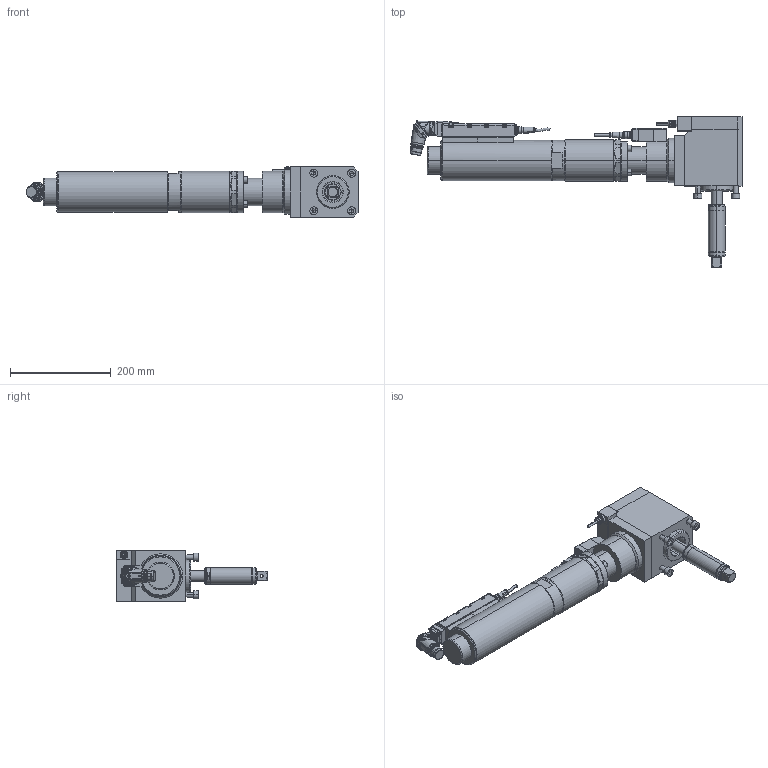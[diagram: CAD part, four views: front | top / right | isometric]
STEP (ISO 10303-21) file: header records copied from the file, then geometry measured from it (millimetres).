
FILE_DESCRIPTION (( 'STEP AP214' ), '1' );
FILE_NAME ('70082535_ESX329ZWRX300AWDX350-300.STEP', '2018-11-28T09:32:34', ( 'admin' ), ( '' ), 'SwSTEP 2.0', 'SolidWorks 2017', '' );
FILE_SCHEMA (( 'AUTOMOTIVE_DESIGN' ));
Length unit declared in the file: millimetre
Products named in the file (11): 70082535_ESX329ZWRX300AWDX350-300; 7002133_3; 70082404; 70082334; 70082308_ESX329_Standard_Winkel_2; 70082293_2; 70057493_Standard_winkel; 70057493_4; 70057493_3; 70057493_2; 70082308
Assembly tree (11 placements, depth 4):
  70082535_ESX329ZWRX300AWDX350-300
    70082308_ESX329_Standard_Winkel_2
      70082308
      70057493_Standard_winkel
        70057493_2
        70057493_3
        70057493_4
      70082293_2  x2
    70082334
    70082404
    7002133_3
Bounding box: 658.56 x 298 x 100 mm (x, y, z)
Volume: 4542213.2 mm3; surface area: 367838 mm2
Topology: 13 solids, 14 shells, 3211 faces, 8156 edges, 5151 vertices
Faces by surface type: plane 1255, cylinder 944, cone 553, bspline 314, torus 139, sphere 6
Entity records: 108154 total; most frequent: CARTESIAN_POINT 34465, ORIENTED_EDGE 15438, DIRECTION 13768, EDGE_CURVE 7719, AXIS2_PLACEMENT_3D 5220, VERTEX_POINT 4927, LINE 3328, VECTOR 3328
